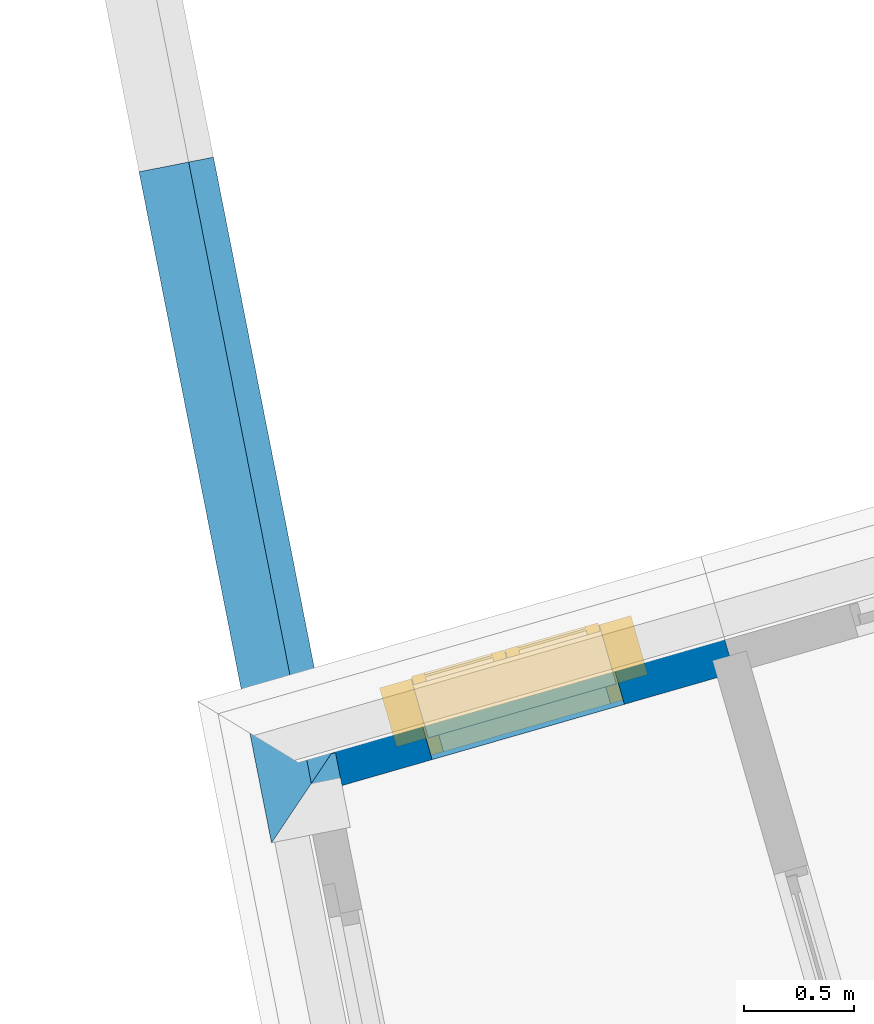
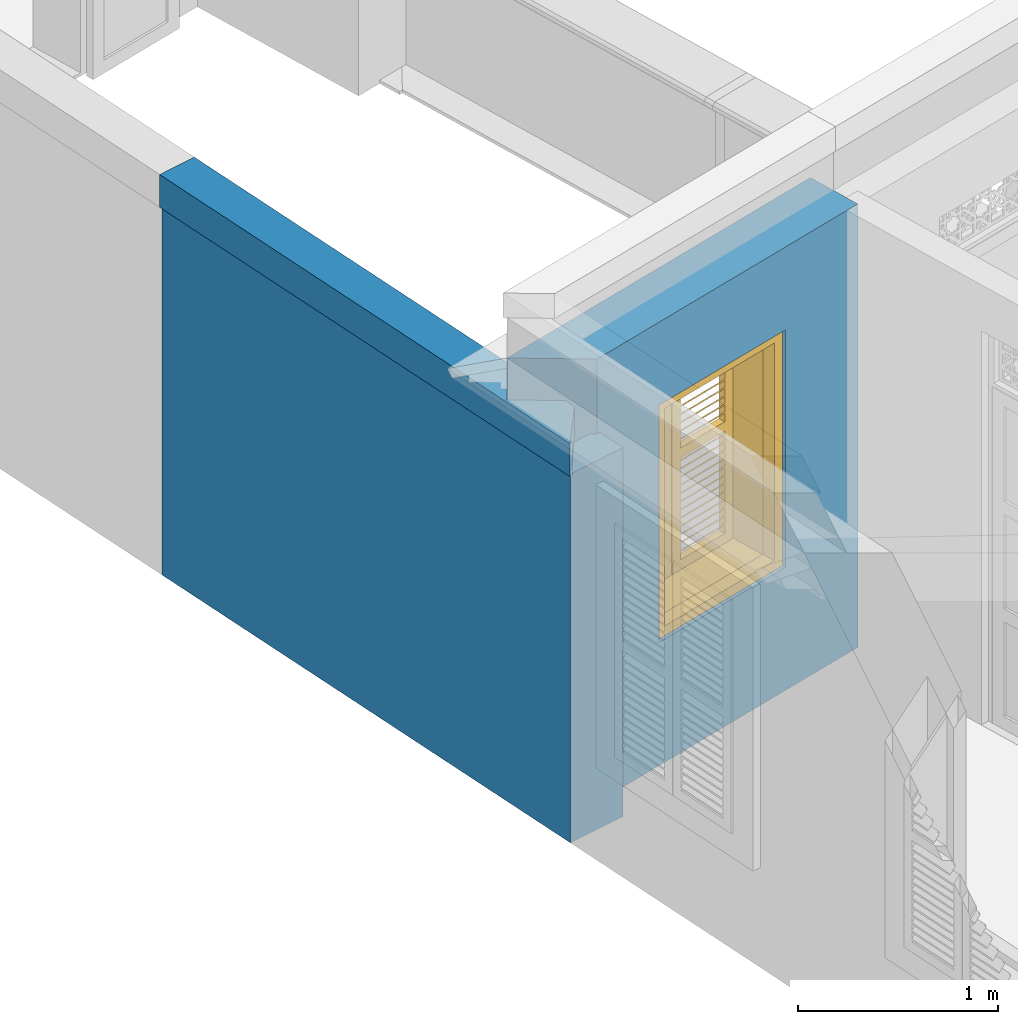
# One storey, part 6 of 22: 4 walls, 1 window, 1 opening.
"""IFC4 building model written with IfcOpenShell, lengths in metres."""

from ifc_helpers import new_model, si_unit, frame, origin, origin_with_axes, place, context, subcontext, project, spatial, polyline, outline, extrude, clip, halfspace, faceted_brep, source, transform, mapped, material, layer, layer_set, layer_usage, material_profile, profile_set, profile_usage, type_object, type_shapes, element, fill, save


model = new_model("IFC4")

# Units and contexts
model_context = context("Model", 3, world=origin_with_axes())
body_context = subcontext(model_context, "Body", "Model", "MODEL_VIEW")
ifc_project = project(units=[si_unit("PLANEANGLEUNIT", "RADIAN"), si_unit("MASSUNIT", "GRAM", prefix="KILO"), si_unit("FORCEUNIT", "NEWTON", prefix="KILO"), si_unit("LENGTHUNIT", "METRE"), si_unit("AREAUNIT", "SQUARE_METRE"), si_unit("VOLUMEUNIT", "CUBIC_METRE")], contexts=[model_context, model_context])

# Site, building, storey
site_placement = place(None, origin_with_axes())
site = spatial("IfcSite", under=ifc_project, at=site_placement, Name="Site plot-9", CompositionType="ELEMENT")
building_placement = place(None, origin_with_axes())
building = spatial("IfcBuilding", under=site, at=building_placement, Name="Building plot-9", CompositionType="ELEMENT")
storey_placement = place(None, frame((0.0, 0.0, 2.85), z_axis=(0.0, 0.0, 1.0), x_axis=(1.0, 0.0, 0.0)))
storey = spatial("IfcBuildingStorey", under=building, at=storey_placement, Name="plot-9 1", CompositionType="ELEMENT", Elevation=2.85)

# Wall, opening, window
ifc_material = material(Name="Masonry")
ifc_layer = layer(ifc_material, 0.33, ventilated=False)
ifc_layer_set = layer_set([ifc_layer], Name="exterior_0.08_0.25")
ifc_layer_usage = layer_usage(ifc_layer_set, "AXIS2", "POSITIVE", -0.25)
wall_type_1 = type_object("IfcWallType", Name="exterior_0.08_0.25", PredefinedType="SOLIDWALL", material=ifc_layer_set)
wall_1_placement = place(storey_placement, frame((-19.1982020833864, -1.94659193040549, 0.0), z_axis=(0.0, 0.0, 1.0), x_axis=(-0.961007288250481, -0.276523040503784, 0.0)))
wall_1 = element("IfcWall", 1, at=wall_1_placement, inside=storey, type_object=wall_type_1, material=ifc_layer_usage, Name="exterior", context=body_context, shape_type="SweptSolid", body=[
    extrude(outline(polyline([(-1.46957615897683e-17, 0.0800000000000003), (-2.03860451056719e-15, -0.25), (2.17943154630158, -0.250000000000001), (1.8764348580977, 0.0800000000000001), (-1.46957615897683e-17, 0.0800000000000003)])), origin_with_axes(), (0.0, 0.0, 1.0), 2.7),
])
opening_placement = place(wall_1_placement, frame((0.519944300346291, 0.0, 0.75)))
opening = element("IfcOpeningElement", 2, at=opening_placement, cuts=wall_1, Name="My Opening", ObjectType="Opening", context=body_context, shape_type="SweptSolid", body=[
    extrude(outline(polyline([(0.0, -0.27), (0.909999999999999, -0.270000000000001), (0.910000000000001, 1.1), (1.33226762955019e-15, 1.1), (0.0, -0.27)])), origin_with_axes(), (0.0, 0.0, 1.0), 1.445),
])
window_type = type_object("IfcWindowType", Name="shuttered_shorter", PartitioningType="DOUBLE_PANEL_HORIZONTAL", PredefinedType="NOTDEFINED")
shared_shape = source(origin(), body_context, "Body", "Brep", [
    faceted_brep([(0.393, 0.0, 0.622), (0.074, 0.0, 0.622), (0.074, 0.0, 0.632), (0.393, 0.0, 0.632), (0.074, -0.04, 0.592), (0.393, -0.04, 0.592), (0.393, -0.04, 0.582), (0.074, -0.04, 0.582), (0.517, 0.0, 0.682), (0.836, 0.0, 0.682), (0.836, 0.0, 0.672), (0.517, 0.0, 0.672), (0.517, -0.04, 0.642), (0.836, -0.04, 0.642), (0.836, -0.04, 0.632), (0.517, -0.04, 0.632), (0.517, 0.0, 0.632), (0.836, 0.0, 0.632), (0.836, 0.0, 0.622), (0.517, 0.0, 0.622), (0.517, -0.04, 0.592), (0.836, -0.04, 0.592), (0.836, -0.04, 0.582), (0.517, -0.04, 0.582), (0.517, 0.0, 0.232), (0.836, 0.0, 0.232), (0.836, 0.0, 0.222), (0.517, 0.0, 0.222), (0.517, -0.04, 0.192), (0.836, -0.04, 0.192), (0.836, -0.04, 0.182), (0.517, -0.04, 0.182), (0.517, 0.0, 0.532), (0.836, 0.0, 0.532), (0.836, 0.0, 0.522), (0.517, 0.0, 0.522), (0.517, -0.04, 0.492), (0.836, -0.04, 0.492), (0.836, -0.04, 0.482), (0.517, -0.04, 0.482), (0.517, 0.0, 0.482), (0.836, 0.0, 0.482), (0.836, 0.0, 0.472), (0.517, 0.0, 0.472), (0.517, -0.04, 0.442), (0.836, -0.04, 0.442), (0.836, -0.04, 0.432), (0.517, -0.04, 0.432), (0.517, 0.0, 0.582), (0.836, 0.0, 0.582), (0.836, 0.0, 0.572), (0.517, 0.0, 0.572), (0.517, -0.04, 0.542), (0.836, -0.04, 0.542), (0.836, -0.04, 0.532), (0.517, -0.04, 0.532), (0.517, 0.0, 0.182), (0.836, 0.0, 0.182), (0.836, 0.0, 0.172), (0.517, 0.0, 0.172), (0.517, -0.04, 0.142), (0.836, -0.04, 0.142), (0.836, -0.04, 0.132), (0.517, -0.04, 0.132), (0.517, 0.0, 0.382), (0.836, 0.0, 0.382), (0.836, 0.0, 0.372), (0.517, 0.0, 0.372), (0.517, -0.04, 0.342), (0.836, -0.04, 0.342), (0.836, -0.04, 0.332), (0.517, -0.04, 0.332), (0.517, 0.0, 0.432), (0.836, 0.0, 0.432), (0.836, 0.0, 0.422), (0.517, 0.0, 0.422), (0.517, -0.04, 0.392), (0.836, -0.04, 0.392), (0.836, -0.04, 0.382), (0.517, -0.04, 0.382), (0.517, 0.0, 0.132), (0.836, 0.0, 0.132), (0.836, 0.0, 0.122), (0.517, 0.0, 0.122), (0.517, -0.04, 0.092), (0.836, -0.04, 0.092), (0.836, -0.04, 0.082), (0.517, -0.04, 0.082), (0.517, 0.0, 0.282), (0.836, 0.0, 0.282), (0.836, 0.0, 0.272), (0.517, 0.0, 0.272), (0.517, -0.04, 0.242), (0.836, -0.04, 0.242), (0.836, -0.04, 0.232), (0.517, -0.04, 0.232), (0.517, 0.0, 0.332), (0.836, 0.0, 0.332), (0.836, 0.0, 0.322), (0.517, 0.0, 0.322), (0.517, -0.04, 0.292), (0.836, -0.04, 0.292), (0.836, -0.04, 0.282), (0.517, -0.04, 0.282), (0.517, 0.0, 1.362667), (0.836, 0.0, 1.362667), (0.836, 0.0, 1.352667), (0.517, 0.0, 1.352667), (0.517, -0.04, 1.322667), (0.836, -0.04, 1.322667), (0.836, -0.04, 1.312667), (0.517, -0.04, 1.312667), (0.517, 0.0, 1.312667), (0.836, 0.0, 1.312667), (0.836, 0.0, 1.302667), (0.517, 0.0, 1.302667), (0.517, -0.04, 1.272667), (0.836, -0.04, 1.272667), (0.836, -0.04, 1.262667), (0.517, -0.04, 1.262667), (0.517, 0.0, 0.912667), (0.836, 0.0, 0.912667), (0.836, 0.0, 0.902667), (0.517, 0.0, 0.902667), (0.517, -0.04, 0.872667), (0.836, -0.04, 0.872667), (0.836, -0.04, 0.862667), (0.517, -0.04, 0.862667), (0.517, 0.0, 1.212667), (0.836, 0.0, 1.212667), (0.836, 0.0, 1.202667), (0.517, 0.0, 1.202667), (0.517, -0.04, 1.172667), (0.836, -0.04, 1.172667), (0.836, -0.04, 1.162667), (0.517, -0.04, 1.162667), (0.517, 0.0, 1.162667), (0.836, 0.0, 1.162667), (0.836, 0.0, 1.152667), (0.517, 0.0, 1.152667), (0.517, -0.04, 1.122667), (0.836, -0.04, 1.122667), (0.836, -0.04, 1.112667), (0.517, -0.04, 1.112667), (0.517, 0.0, 1.262667), (0.836, 0.0, 1.262667), (0.836, 0.0, 1.252667), (0.517, 0.0, 1.252667), (0.517, -0.04, 1.222667), (0.836, -0.04, 1.222667), (0.836, -0.04, 1.212667), (0.517, -0.04, 1.212667), (0.517, 0.0, 0.862667), (0.836, 0.0, 0.862667), (0.836, 0.0, 0.852667), (0.517, 0.0, 0.852667), (0.517, -0.04, 0.822667), (0.836, -0.04, 0.822667), (0.836, -0.04, 0.812667), (0.517, -0.04, 0.812667), (0.517, 0.0, 1.062667), (0.836, 0.0, 1.062667), (0.836, 0.0, 1.052667), (0.517, 0.0, 1.052667), (0.517, -0.04, 1.022667), (0.836, -0.04, 1.022667), (0.836, -0.04, 1.012667), (0.517, -0.04, 1.012667), (0.517, 0.0, 1.112667), (0.836, 0.0, 1.112667), (0.836, 0.0, 1.102667), (0.517, 0.0, 1.102667), (0.517, -0.04, 1.072667), (0.836, -0.04, 1.072667), (0.836, -0.04, 1.062667), (0.517, -0.04, 1.062667), (0.517, 0.0, 0.812667), (0.836, 0.0, 0.812667), (0.836, 0.0, 0.802667), (0.517, 0.0, 0.802667), (0.517, -0.04, 0.772667), (0.836, -0.04, 0.772667), (0.836, -0.04, 0.762667), (0.517, -0.04, 0.762667), (0.517, 0.0, 0.962667), (0.836, 0.0, 0.962667), (0.836, 0.0, 0.952667), (0.517, 0.0, 0.952667), (0.517, -0.04, 0.922667), (0.836, -0.04, 0.922667), (0.836, -0.04, 0.912667), (0.517, -0.04, 0.912667), (0.517, 0.0, 1.012667), (0.836, 0.0, 1.012667), (0.836, 0.0, 1.002667), (0.517, 0.0, 1.002667), (0.517, -0.04, 0.972667), (0.836, -0.04, 0.972667), (0.836, -0.04, 0.962667), (0.517, -0.04, 0.962667), (0.074, 0.0, 0.682), (0.393, 0.0, 0.682), (0.393, 0.0, 0.672), (0.074, 0.0, 0.672), (0.074, -0.04, 0.642), (0.393, -0.04, 0.642), (0.393, -0.04, 0.632), (0.074, -0.04, 0.632), (0.074, 0.0, 0.232), (0.393, 0.0, 0.232), (0.393, 0.0, 0.222), (0.074, 0.0, 0.222), (0.074, -0.04, 0.192), (0.393, -0.04, 0.192), (0.393, -0.04, 0.182), (0.074, -0.04, 0.182), (0.074, 0.0, 0.532), (0.393, 0.0, 0.532), (0.393, 0.0, 0.522), (0.074, 0.0, 0.522), (0.074, -0.04, 0.492), (0.393, -0.04, 0.492), (0.393, -0.04, 0.482), (0.074, -0.04, 0.482), (0.074, 0.0, 0.482), (0.393, 0.0, 0.482), (0.393, 0.0, 0.472), (0.074, 0.0, 0.472), (0.074, -0.04, 0.442), (0.393, -0.04, 0.442), (0.393, -0.04, 0.432), (0.074, -0.04, 0.432), (0.074, 0.0, 0.582), (0.393, 0.0, 0.582), (0.393, 0.0, 0.572), (0.074, 0.0, 0.572), (0.074, -0.04, 0.542), (0.393, -0.04, 0.542), (0.393, -0.04, 0.532), (0.074, -0.04, 0.532), (0.074, 0.0, 0.182), (0.393, 0.0, 0.182), (0.393, 0.0, 0.172), (0.074, 0.0, 0.172), (0.074, -0.04, 0.142), (0.393, -0.04, 0.142), (0.393, -0.04, 0.132), (0.074, -0.04, 0.132), (0.074, 0.0, 0.382), (0.393, 0.0, 0.382), (0.393, 0.0, 0.372), (0.074, 0.0, 0.372), (0.074, -0.04, 0.342), (0.393, -0.04, 0.342), (0.393, -0.04, 0.332), (0.074, -0.04, 0.332), (0.074, 0.0, 0.432), (0.393, 0.0, 0.432), (0.393, 0.0, 0.422), (0.074, 0.0, 0.422), (0.074, -0.04, 0.392), (0.393, -0.04, 0.392), (0.393, -0.04, 0.382), (0.074, -0.04, 0.382), (0.074, 0.0, 0.132), (0.393, 0.0, 0.132), (0.393, 0.0, 0.122), (0.074, 0.0, 0.122), (0.074, -0.04, 0.092), (0.393, -0.04, 0.092), (0.393, -0.04, 0.082), (0.074, -0.04, 0.082), (0.074, 0.0, 0.282), (0.393, 0.0, 0.282), (0.393, 0.0, 0.272), (0.074, 0.0, 0.272), (0.074, -0.04, 0.242), (0.393, -0.04, 0.242), (0.393, -0.04, 0.232), (0.074, -0.04, 0.232), (0.074, 0.0, 0.332), (0.393, 0.0, 0.332), (0.393, 0.0, 0.322), (0.074, 0.0, 0.322), (0.074, -0.04, 0.292), (0.393, -0.04, 0.292), (0.393, -0.04, 0.282), (0.074, -0.04, 0.282), (0.074, 0.0, 1.362667), (0.393, 0.0, 1.362667), (0.393, 0.0, 1.352667), (0.074, 0.0, 1.352667), (0.074, -0.04, 1.322667), (0.393, -0.04, 1.322667), (0.393, -0.04, 1.312667), (0.074, -0.04, 1.312667), (0.074, 0.0, 1.312667), (0.393, 0.0, 1.312667), (0.393, 0.0, 1.302667), (0.074, 0.0, 1.302667), (0.074, -0.04, 1.272667), (0.393, -0.04, 1.272667), (0.393, -0.04, 1.262667), (0.074, -0.04, 1.262667), (0.074, 0.0, 0.912667), (0.393, 0.0, 0.912667), (0.393, 0.0, 0.902667), (0.074, 0.0, 0.902667), (0.074, -0.04, 0.872667), (0.393, -0.04, 0.872667), (0.393, -0.04, 0.862667), (0.074, -0.04, 0.862667), (0.074, 0.0, 1.212667), (0.393, 0.0, 1.212667), (0.393, 0.0, 1.202667), (0.074, 0.0, 1.202667), (0.074, -0.04, 1.172667), (0.393, -0.04, 1.172667), (0.393, -0.04, 1.162667), (0.074, -0.04, 1.162667), (0.074, 0.0, 1.162667), (0.393, 0.0, 1.162667), (0.393, 0.0, 1.152667), (0.074, 0.0, 1.152667), (0.074, -0.04, 1.122667), (0.393, -0.04, 1.122667), (0.393, -0.04, 1.112667), (0.074, -0.04, 1.112667), (0.074, 0.0, 1.262667), (0.393, 0.0, 1.262667), (0.393, 0.0, 1.252667), (0.074, 0.0, 1.252667), (0.074, -0.04, 1.222667), (0.393, -0.04, 1.222667), (0.393, -0.04, 1.212667), (0.074, -0.04, 1.212667), (0.074, 0.0, 0.862667), (0.393, 0.0, 0.862667), (0.393, 0.0, 0.852667), (0.074, 0.0, 0.852667), (0.074, -0.04, 0.822667), (0.393, -0.04, 0.822667), (0.393, -0.04, 0.812667), (0.074, -0.04, 0.812667), (0.074, 0.0, 1.062667), (0.393, 0.0, 1.062667), (0.393, 0.0, 1.052667), (0.074, 0.0, 1.052667), (0.074, -0.04, 1.022667), (0.393, -0.04, 1.022667), (0.393, -0.04, 1.012667), (0.074, -0.04, 1.012667), (0.074, 0.0, 1.112667), (0.393, 0.0, 1.112667), (0.393, 0.0, 1.102667), (0.074, 0.0, 1.102667), (0.074, -0.04, 1.072667), (0.393, -0.04, 1.072667), (0.393, -0.04, 1.062667), (0.074, -0.04, 1.062667), (0.074, 0.0, 0.812667), (0.393, 0.0, 0.812667), (0.393, 0.0, 0.802667), (0.074, 0.0, 0.802667), (0.074, -0.04, 0.772667), (0.393, -0.04, 0.772667), (0.393, -0.04, 0.762667), (0.074, -0.04, 0.762667), (0.074, 0.0, 0.962667), (0.393, 0.0, 0.962667), (0.393, 0.0, 0.952667), (0.074, 0.0, 0.952667), (0.074, -0.04, 0.922667), (0.393, -0.04, 0.922667), (0.393, -0.04, 0.912667), (0.074, -0.04, 0.912667), (0.074, 0.0, 1.012667), (0.393, 0.0, 1.012667), (0.393, 0.0, 1.002667), (0.074, 0.0, 1.002667), (0.074, -0.04, 0.972667), (0.393, -0.04, 0.972667), (0.393, -0.04, 0.962667), (0.074, -0.04, 0.962667), (0.517, -0.04, 0.072), (0.457, -0.04, 0.012), (0.896, -0.04, 0.012), (0.836, -0.04, 0.072), (0.457, -0.04, 0.692667), (0.517, -0.04, 0.692667), (0.457, 0.0, 0.012), (0.896, 0.0, 0.012), (0.836, -0.04, 0.692667), (0.896, -0.04, 0.692667), (0.836, 0.0, 0.072), (0.517, 0.0, 0.072), (0.457, 0.0, 0.692667), (0.517, 0.0, 0.692667), (0.517, -0.04, 0.752666), (0.457, -0.04, 0.752666), (0.896, 0.0, 0.692667), (0.836, 0.0, 0.692667), (0.836, -0.04, 0.752666), (0.896, -0.04, 0.752666), (0.457, 0.0, 0.752666), (0.457, -0.04, 1.433333), (0.517, -0.04, 1.373333), (0.896, 0.0, 0.752666), (0.836, -0.04, 1.373333), (0.896, -0.04, 1.433333), (0.457, 0.0, 1.433333), (0.517, 0.0, 0.752666), (0.836, 0.0, 0.752666), (0.517, 0.0, 1.373333), (0.896, 0.0, 1.433333), (0.836, 0.0, 1.373333), (0.074, -0.04, 0.072), (0.014, -0.04, 0.012), (0.453, -0.04, 0.012), (0.393, -0.04, 0.072), (0.014, -0.04, 0.692667), (0.074, -0.04, 0.692667), (0.014, 0.0, 0.012), (0.453, 0.0, 0.012), (0.393, -0.04, 0.692667), (0.453, -0.04, 0.692667), (0.393, 0.0, 0.072), (0.074, 0.0, 0.072), (0.014, 0.0, 0.692667), (0.074, 0.0, 0.692667), (0.074, -0.04, 0.752666), (0.014, -0.04, 0.752666), (0.453, 0.0, 0.692667), (0.393, 0.0, 0.692667), (0.393, -0.04, 0.752666), (0.453, -0.04, 0.752666), (0.014, 0.0, 0.752666), (0.014, -0.04, 1.433333), (0.074, -0.04, 1.373333), (0.453, 0.0, 0.752666), (0.393, -0.04, 1.373333), (0.453, -0.04, 1.433333), (0.014, 0.0, 1.433333), (0.074, 0.0, 0.752666), (0.393, 0.0, 0.752666), (0.074, 0.0, 1.373333), (0.453, 0.0, 1.433333), (0.393, 0.0, 1.373333), (0.0, 0.33, 1.445), (0.91, 0.33, 1.445), (0.85, 0.33, 1.385), (0.06, 0.33, 1.385), (0.91, 0.25, 1.445), (0.0, 0.25, 1.445), (0.91, 0.25, 1.445), (0.85, 0.33, 0.06), (0.91, 0.33, 0.0), (0.85, 0.25, 1.385), (0.06, 0.25, 1.385), (0.0, 0.33, 0.0), (0.06, 0.33, 0.06), (0.0, 0.25, 0.0), (0.91, 0.25, 0.0), (0.85, 0.25, 0.06), (0.06, 0.25, 0.06), (1.05, 0.25, 1.585), (-0.14, 0.25, 1.585), (-0.14, -0.03, 1.585), (1.05, -0.03, 1.585), (0.9, -0.03, 1.435), (0.01, -0.03, 1.435), (0.01, 0.25, 1.435), (0.9, 0.25, 1.435), (0.9, 0.25, 0.01), (0.9, -0.03, 0.01), (1.05, -0.03, -0.14), (1.05, 0.25, -0.14), (0.01, -0.03, 0.01), (0.01, 0.25, 0.01), (-0.14, -0.03, -0.14), (-0.14, 0.25, -0.14)], [[[0, 1, 2, 3]], [[4, 5, 3, 2]], [[5, 6, 0, 3]], [[1, 0, 6, 7]], [[2, 1, 7, 4]], [[5, 4, 7, 6]], [[8, 9, 10, 11]], [[12, 13, 9, 8]], [[13, 14, 10, 9]], [[14, 15, 11, 10]], [[15, 12, 8, 11]], [[13, 12, 15, 14]], [[16, 17, 18, 19]], [[20, 21, 17, 16]], [[21, 22, 18, 17]], [[22, 23, 19, 18]], [[23, 20, 16, 19]], [[21, 20, 23, 22]], [[24, 25, 26, 27]], [[28, 29, 25, 24]], [[29, 30, 26, 25]], [[30, 31, 27, 26]], [[31, 28, 24, 27]], [[29, 28, 31, 30]], [[32, 33, 34, 35]], [[36, 37, 33, 32]], [[37, 38, 34, 33]], [[38, 39, 35, 34]], [[39, 36, 32, 35]], [[37, 36, 39, 38]], [[40, 41, 42, 43]], [[44, 45, 41, 40]], [[45, 46, 42, 41]], [[46, 47, 43, 42]], [[47, 44, 40, 43]], [[45, 44, 47, 46]], [[48, 49, 50, 51]], [[52, 53, 49, 48]], [[53, 54, 50, 49]], [[54, 55, 51, 50]], [[55, 52, 48, 51]], [[53, 52, 55, 54]], [[56, 57, 58, 59]], [[60, 61, 57, 56]], [[61, 62, 58, 57]], [[62, 63, 59, 58]], [[63, 60, 56, 59]], [[61, 60, 63, 62]], [[64, 65, 66, 67]], [[68, 69, 65, 64]], [[69, 70, 66, 65]], [[70, 71, 67, 66]], [[71, 68, 64, 67]], [[69, 68, 71, 70]], [[72, 73, 74, 75]], [[76, 77, 73, 72]], [[77, 78, 74, 73]], [[78, 79, 75, 74]], [[79, 76, 72, 75]], [[77, 76, 79, 78]], [[80, 81, 82, 83]], [[84, 85, 81, 80]], [[85, 86, 82, 81]], [[86, 87, 83, 82]], [[87, 84, 80, 83]], [[85, 84, 87, 86]], [[88, 89, 90, 91]], [[92, 93, 89, 88]], [[93, 94, 90, 89]], [[94, 95, 91, 90]], [[95, 92, 88, 91]], [[93, 92, 95, 94]], [[96, 97, 98, 99]], [[100, 101, 97, 96]], [[101, 102, 98, 97]], [[102, 103, 99, 98]], [[103, 100, 96, 99]], [[101, 100, 103, 102]], [[104, 105, 106, 107]], [[108, 109, 105, 104]], [[109, 110, 106, 105]], [[110, 111, 107, 106]], [[111, 108, 104, 107]], [[109, 108, 111, 110]], [[112, 113, 114, 115]], [[116, 117, 113, 112]], [[117, 118, 114, 113]], [[118, 119, 115, 114]], [[119, 116, 112, 115]], [[117, 116, 119, 118]], [[120, 121, 122, 123]], [[124, 125, 121, 120]], [[125, 126, 122, 121]], [[126, 127, 123, 122]], [[127, 124, 120, 123]], [[125, 124, 127, 126]], [[128, 129, 130, 131]], [[132, 133, 129, 128]], [[133, 134, 130, 129]], [[134, 135, 131, 130]], [[135, 132, 128, 131]], [[133, 132, 135, 134]], [[136, 137, 138, 139]], [[140, 141, 137, 136]], [[141, 142, 138, 137]], [[142, 143, 139, 138]], [[139, 143, 140, 136]], [[141, 140, 143, 142]], [[144, 145, 146, 147]], [[148, 149, 145, 144]], [[149, 150, 146, 145]], [[150, 151, 147, 146]], [[151, 148, 144, 147]], [[149, 148, 151, 150]], [[152, 153, 154, 155]], [[156, 157, 153, 152]], [[157, 158, 154, 153]], [[158, 159, 155, 154]], [[159, 156, 152, 155]], [[157, 156, 159, 158]], [[160, 161, 162, 163]], [[164, 165, 161, 160]], [[165, 166, 162, 161]], [[166, 167, 163, 162]], [[167, 164, 160, 163]], [[165, 164, 167, 166]], [[168, 169, 170, 171]], [[172, 173, 169, 168]], [[173, 174, 170, 169]], [[174, 175, 171, 170]], [[175, 172, 168, 171]], [[173, 172, 175, 174]], [[176, 177, 178, 179]], [[180, 181, 177, 176]], [[181, 182, 178, 177]], [[182, 183, 179, 178]], [[183, 180, 176, 179]], [[181, 180, 183, 182]], [[184, 185, 186, 187]], [[188, 189, 185, 184]], [[189, 190, 186, 185]], [[190, 191, 187, 186]], [[191, 188, 184, 187]], [[189, 188, 191, 190]], [[192, 193, 194, 195]], [[196, 197, 193, 192]], [[197, 198, 194, 193]], [[198, 199, 195, 194]], [[199, 196, 192, 195]], [[197, 196, 199, 198]], [[200, 201, 202, 203]], [[204, 205, 201, 200]], [[205, 206, 202, 201]], [[206, 207, 203, 202]], [[207, 204, 200, 203]], [[205, 204, 207, 206]], [[208, 209, 210, 211]], [[212, 213, 209, 208]], [[213, 214, 210, 209]], [[214, 215, 211, 210]], [[215, 212, 208, 211]], [[213, 212, 215, 214]], [[216, 217, 218, 219]], [[220, 221, 217, 216]], [[221, 222, 218, 217]], [[222, 223, 219, 218]], [[223, 220, 216, 219]], [[221, 220, 223, 222]], [[224, 225, 226, 227]], [[228, 229, 225, 224]], [[229, 230, 226, 225]], [[230, 231, 227, 226]], [[231, 228, 224, 227]], [[229, 228, 231, 230]], [[232, 233, 234, 235]], [[236, 237, 233, 232]], [[237, 238, 234, 233]], [[238, 239, 235, 234]], [[239, 236, 232, 235]], [[237, 236, 239, 238]], [[240, 241, 242, 243]], [[244, 245, 241, 240]], [[245, 246, 242, 241]], [[246, 247, 243, 242]], [[247, 244, 240, 243]], [[245, 244, 247, 246]], [[248, 249, 250, 251]], [[252, 253, 249, 248]], [[253, 254, 250, 249]], [[254, 255, 251, 250]], [[255, 252, 248, 251]], [[253, 252, 255, 254]], [[256, 257, 258, 259]], [[260, 261, 257, 256]], [[261, 262, 258, 257]], [[262, 263, 259, 258]], [[263, 260, 256, 259]], [[261, 260, 263, 262]], [[264, 265, 266, 267]], [[268, 269, 265, 264]], [[269, 270, 266, 265]], [[270, 271, 267, 266]], [[271, 268, 264, 267]], [[269, 268, 271, 270]], [[272, 273, 274, 275]], [[276, 277, 273, 272]], [[277, 278, 274, 273]], [[278, 279, 275, 274]], [[279, 276, 272, 275]], [[277, 276, 279, 278]], [[280, 281, 282, 283]], [[284, 285, 281, 280]], [[285, 286, 282, 281]], [[286, 287, 283, 282]], [[287, 284, 280, 283]], [[285, 284, 287, 286]], [[288, 289, 290, 291]], [[292, 293, 289, 288]], [[293, 294, 290, 289]], [[294, 295, 291, 290]], [[295, 292, 288, 291]], [[293, 292, 295, 294]], [[296, 297, 298, 299]], [[300, 301, 297, 296]], [[301, 302, 298, 297]], [[302, 303, 299, 298]], [[303, 300, 296, 299]], [[301, 300, 303, 302]], [[304, 305, 306, 307]], [[308, 309, 305, 304]], [[309, 310, 306, 305]], [[310, 311, 307, 306]], [[311, 308, 304, 307]], [[309, 308, 311, 310]], [[312, 313, 314, 315]], [[316, 317, 313, 312]], [[317, 318, 314, 313]], [[318, 319, 315, 314]], [[319, 316, 312, 315]], [[317, 316, 319, 318]], [[320, 321, 322, 323]], [[324, 325, 321, 320]], [[325, 326, 322, 321]], [[326, 327, 323, 322]], [[327, 324, 320, 323]], [[325, 324, 327, 326]], [[328, 329, 330, 331]], [[332, 333, 329, 328]], [[333, 334, 330, 329]], [[334, 335, 331, 330]], [[335, 332, 328, 331]], [[333, 332, 335, 334]], [[336, 337, 338, 339]], [[340, 341, 337, 336]], [[341, 342, 338, 337]], [[342, 343, 339, 338]], [[343, 340, 336, 339]], [[341, 340, 343, 342]], [[344, 345, 346, 347]], [[348, 349, 345, 344]], [[349, 350, 346, 345]], [[350, 351, 347, 346]], [[351, 348, 344, 347]], [[349, 348, 351, 350]], [[352, 353, 354, 355]], [[356, 357, 353, 352]], [[357, 358, 354, 353]], [[358, 359, 355, 354]], [[359, 356, 352, 355]], [[357, 356, 359, 358]], [[360, 361, 362, 363]], [[364, 365, 361, 360]], [[365, 366, 362, 361]], [[366, 367, 363, 362]], [[367, 364, 360, 363]], [[365, 364, 367, 366]], [[368, 369, 370, 371]], [[372, 373, 369, 368]], [[373, 374, 370, 369]], [[374, 375, 371, 370]], [[375, 372, 368, 371]], [[373, 372, 375, 374]], [[376, 377, 378, 379]], [[380, 381, 377, 376]], [[381, 382, 378, 377]], [[382, 383, 379, 378]], [[383, 380, 376, 379]], [[381, 380, 383, 382]], [[384, 385, 386, 387]], [[388, 385, 384, 389]], [[390, 391, 386, 385]], [[392, 387, 386, 393]], [[384, 387, 394, 395]], [[390, 385, 388, 396]], [[389, 384, 395, 397]], [[389, 398, 399, 388]], [[390, 395, 394, 391]], [[400, 393, 386, 391]], [[387, 392, 401, 394]], [[402, 392, 393, 403]], [[396, 388, 399, 404]], [[390, 396, 397, 395]], [[392, 389, 397, 401]], [[398, 389, 392, 402]], [[405, 399, 398, 406]], [[394, 401, 400, 391]], [[407, 403, 393, 400]], [[408, 402, 403, 409]], [[404, 399, 405, 410]], [[411, 397, 396, 404]], [[397, 411, 412, 401]], [[398, 402, 412, 411]], [[406, 398, 411, 413]], [[405, 406, 408, 409]], [[401, 412, 407, 400]], [[414, 409, 403, 407]], [[402, 408, 415, 412]], [[405, 409, 414, 410]], [[404, 410, 413, 411]], [[408, 406, 413, 415]], [[412, 415, 414, 407]], [[413, 410, 414, 415]], [[416, 417, 418, 419]], [[420, 417, 416, 421]], [[422, 423, 418, 417]], [[424, 419, 418, 425]], [[416, 419, 426, 427]], [[422, 417, 420, 428]], [[421, 416, 427, 429]], [[421, 430, 431, 420]], [[422, 427, 426, 423]], [[432, 425, 418, 423]], [[419, 424, 433, 426]], [[434, 424, 425, 435]], [[428, 420, 431, 436]], [[422, 428, 429, 427]], [[424, 421, 429, 433]], [[430, 421, 424, 434]], [[437, 431, 430, 438]], [[426, 433, 432, 423]], [[439, 435, 425, 432]], [[440, 434, 435, 441]], [[436, 431, 437, 442]], [[443, 429, 428, 436]], [[429, 443, 444, 433]], [[430, 434, 444, 443]], [[438, 430, 443, 445]], [[437, 438, 440, 441]], [[433, 444, 439, 432]], [[446, 441, 435, 439]], [[434, 440, 447, 444]], [[437, 441, 446, 442]], [[436, 442, 445, 443]], [[440, 438, 445, 447]], [[444, 447, 446, 439]], [[445, 442, 446, 447]], [[448, 449, 450, 451]], [[452, 449, 448]], [[448, 453, 454]], [[448, 454, 452]], [[455, 450, 449, 456]], [[451, 450, 457, 458]], [[459, 448, 451, 460]], [[448, 459, 461, 453]], [[454, 453, 458, 457]], [[462, 452, 454]], [[454, 457, 463]], [[454, 463, 462]], [[456, 449, 452, 462]], [[450, 455, 463, 457]], [[456, 459, 460, 455]], [[460, 451, 458, 464]], [[459, 456, 462, 461]], [[464, 458, 453, 461]], [[461, 462, 463, 464]], [[455, 460, 464, 463]], [[465, 466, 467, 468]], [[469, 470, 471, 472]], [[473, 474, 469, 472]], [[465, 468, 475, 476]], [[470, 477, 478, 471]], [[474, 473, 478, 477]], [[474, 477, 479, 475]], [[470, 467, 479, 477]], [[470, 469, 468, 467]], [[474, 475, 468, 469]], [[471, 478, 480, 466]], [[473, 472, 465, 476]], [[473, 476, 480, 478]], [[466, 465, 472, 471]], [[480, 476, 475, 479]], [[480, 479, 467, 466]]]),
])
type_shapes(window_type, [shared_shape])
window_placement = place(storey_placement, frame((-19.7725335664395, -1.83089654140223, 0.75), z_axis=(0.0, 0.0, 1.0), x_axis=(-0.874516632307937, -0.251635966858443, 0.0)))
window = element("IfcWindow", 3, at=window_placement, inside=storey, type_object=window_type, Name="bedroom sahn window", OverallHeight=1.445, OverallWidth=0.91, context=body_context, shape_type="MappedRepresentation", body=[
    mapped(shared_shape, transform((0.0, 0.0, 0.0), scale=1.0)),
])
fill(opening, window)

# Walls
ifc_material_profile_1 = material_profile(None, outline(polyline([(0.25, 0.0), (0.25, 2.245), (0.05, 2.245), (0.05, 0.02), (-0.08, 0.02), (-0.08, 0.0), (0.25, 0.0)])))
ifc_profile_set_1 = profile_set([ifc_material_profile_1])
ifc_profile_usage_1 = profile_usage(ifc_profile_set_1)
wall_type_2 = type_object("IfcWallType", Name="parapet street_0", PredefinedType="PARAPET", material=ifc_profile_set_1)
wall_2_placement = place(storey_placement, frame((-20.8783840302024, -3.46684675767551, 0.0), z_axis=(-0.193675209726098, 0.981065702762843, 0.0), x_axis=(-0.981065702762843, -0.193675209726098, 0.0)))
element("IfcWall", 4, at=wall_2_placement, inside=storey, type_object=wall_type_2, material=ifc_profile_usage_1, Name="parapet street_0", context=body_context, shape_type="Clipping", body=[
    clip(clip(extrude(outline(polyline([(0.25, 0.0), (0.25, 2.245), (0.05, 2.245), (0.05, 0.02), (-0.08, 0.02), (-0.08, 0.0), (0.25, 0.0)])), origin_with_axes(), (0.0, 0.0, 1.0), 4.8452260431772), halfspace(frame((0.0, 0.0, 3.8452260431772), z_axis=(2.72502540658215e-14, 0.0, -1.0), x_axis=(0.0, 1.0, 0.0)), True)), halfspace(frame((0.0, 0.0, 1.0), z_axis=(-0.707106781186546, 0.0, -0.707106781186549), x_axis=(0.0, 1.0, 0.0)), False)),
])
ifc_profile_usage_2 = profile_usage(ifc_profile_set_1)
wall_3_placement = place(storey_placement, frame((-19.9928869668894, -2.27273832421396, 0.0), z_axis=(-0.981065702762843, -0.193675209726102, 0.0), x_axis=(0.193675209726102, -0.981065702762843, 0.0)))
element("IfcWall", 5, at=wall_3_placement, inside=storey, type_object=wall_type_2, material=ifc_profile_usage_2, Name="parapet street_0", context=body_context, shape_type="Clipping", body=[
    clip(clip(extrude(outline(polyline([(0.25, 0.0), (0.25, 2.245), (0.05, 2.245), (0.05, 0.02), (-0.08, 0.02), (-0.08, 0.0), (0.25, 0.0)])), origin_with_axes(), (0.0, 0.0, 1.0), 2.1), halfspace(frame((0.0, 0.0, 1.1), z_axis=(0.707106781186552, 0.0, -0.707106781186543), x_axis=(0.0, 1.0, 0.0)), True)), halfspace(frame((0.0, 0.0, 1.0), z_axis=(-5.0532154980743e-16, 0.0, -1.0), x_axis=(0.0, 1.0, 0.0)), False)),
])
ifc_material_profile_2 = material_profile(None, outline(polyline([(0.265, 2.245), (0.265, 2.445), (0.035, 2.445), (0.035, 2.245), (0.265, 2.245)])))
ifc_profile_set_2 = profile_set([ifc_material_profile_2])
ifc_profile_usage_3 = profile_usage(ifc_profile_set_2)
wall_type_3 = type_object("IfcWallType", Name="parapet street_1", PredefinedType="PARAPET", material=ifc_profile_set_2)
wall_4_placement = place(storey_placement, frame((-20.8783840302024, -3.46684675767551, 0.0), z_axis=(-0.193675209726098, 0.981065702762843, 0.0), x_axis=(-0.981065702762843, -0.193675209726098, 0.0)))
element("IfcWall", 6, at=wall_4_placement, inside=storey, type_object=wall_type_3, material=ifc_profile_usage_3, Name="parapet street_1", context=body_context, shape_type="Clipping", body=[
    clip(clip(extrude(outline(polyline([(0.265, 2.245), (0.265, 2.445), (0.035, 2.445), (0.035, 2.245), (0.265, 2.245)])), origin_with_axes(), (0.0, 0.0, 1.0), 4.8452260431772), halfspace(frame((0.0, 0.0, 3.8452260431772), z_axis=(2.72502540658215e-14, 0.0, -1.0), x_axis=(0.0, 1.0, 0.0)), True)), halfspace(frame((0.0, 0.0, 1.0), z_axis=(-0.707106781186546, 0.0, -0.707106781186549), x_axis=(0.0, 1.0, 0.0)), False)),
])

save(model, "model.ifc")
